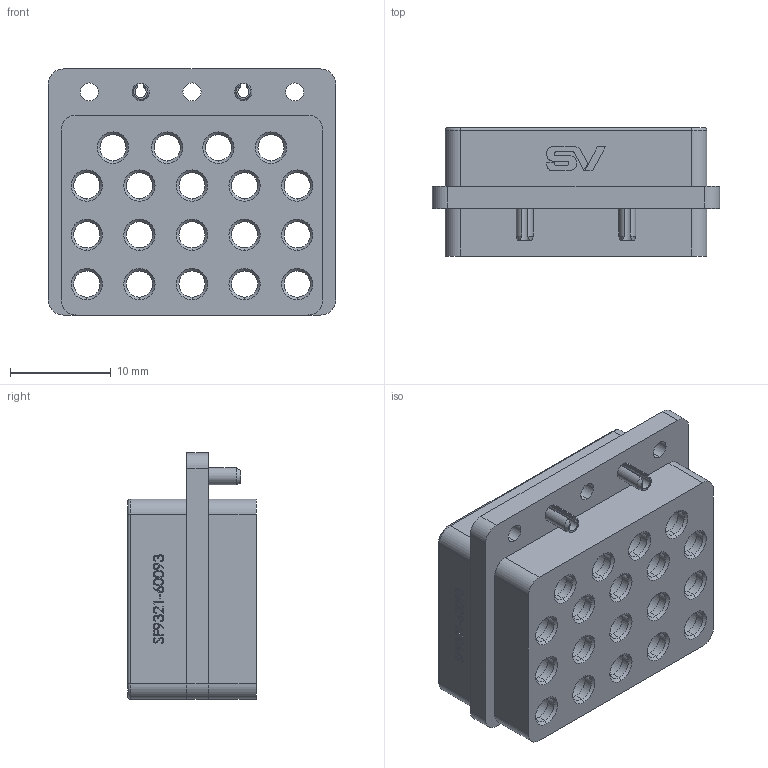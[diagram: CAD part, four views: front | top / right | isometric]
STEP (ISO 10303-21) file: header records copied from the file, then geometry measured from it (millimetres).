
FILE_DESCRIPTION (( 'STEP AP214' ), '1' );
FILE_NAME ('SF9321-60093.STEP', '2019-10-14T16:48:58', ( '' ), ( '' ), 'SwSTEP 2.0', 'SolidWorks 2018', '' );
FILE_SCHEMA (( 'AUTOMOTIVE_DESIGN' ));
Length unit declared in the file: inch
Products named in the file (1): SF9321-60093
Bounding box: 28.45 x 12.74 x 24.38 mm (x, y, z)
Volume: 4874.5 mm3; surface area: 4889.1 mm2
Topology: 3 solids, 3 shells, 796 faces, 2034 edges, 1324 vertices
Faces by surface type: plane 324, bspline 262, cylinder 120, cone 86, torus 4
Entity records: 49112 total; most frequent: CARTESIAN_POINT 20881, ORIENTED_EDGE 4068, DIRECTION 2896, EDGE_CURVE 2034, VERTEX_POINT 1324, VECTOR 1162, LINE 1162, EDGE_LOOP 924
